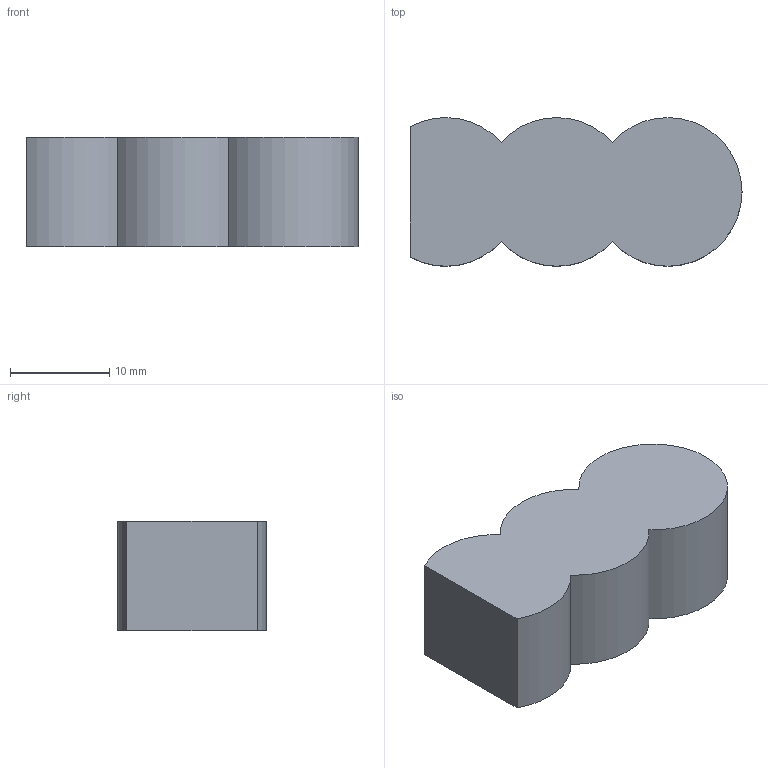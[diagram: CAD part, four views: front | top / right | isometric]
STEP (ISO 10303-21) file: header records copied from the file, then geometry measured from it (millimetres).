
FILE_DESCRIPTION(/* description */ (''),/* implementation_level */ '2;1');
FILE_NAME(/* name */ 'C:\Users\matthiask.LAMELLONET\Desktop\Cabineo_Bund_aufliegend_Variante_1-2.stp',/* time_stamp */ '2021-07-09T11:41:03+02:00',/* author */ ('matthiask'),/* organization */ (''),/* preprocessor_version */ 'ST-DEVELOPER v18',/* originating_system */ 'Autodesk Inventor 2020',/* authorisation */ '');
FILE_SCHEMA (('AUTOMOTIVE_DESIGN { 1 0 10303 214 3 1 1 }'));
Length unit declared in the file: millimetre
Products named in the file (1): Cabineo Bund aufliegend Variante 1-2
Bounding box: 33.5 x 15 x 11 mm (x, y, z)
Volume: 4858.1 mm3; surface area: 1926.2 mm2
Topology: 1 solids, 1 shells, 8 faces, 18 edges, 12 vertices
Faces by surface type: cylinder 5, plane 3
Entity records: 282 total; most frequent: DIRECTION 46, CARTESIAN_POINT 39, ORIENTED_EDGE 36, AXIS2_PLACEMENT_3D 19, EDGE_CURVE 18, VERTEX_POINT 12, CIRCLE 10, FACE_OUTER_BOUND 8
